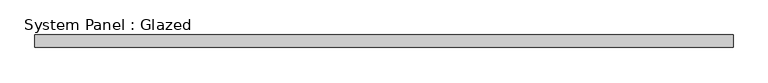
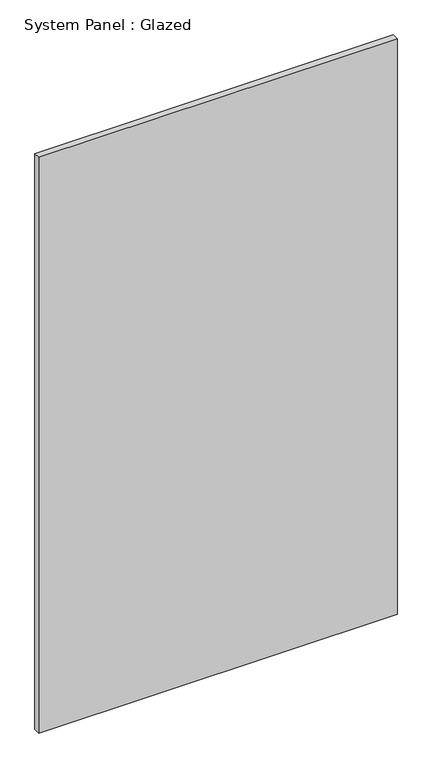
"""IFC4 building model written with IfcOpenShell, lengths in millimetres: plate geometry, System Panel : Glazed."""

from ifc_helpers import new_model, si_unit, origin, origin_with_axes, place, context, project, spatial, polyline, outline, extrude, source, transform, mapped, element, save


def system_panel_glazed_0eb4fe1c(model_context):
    return source(origin(), model_context, "Body", "SweptSolid", [
        extrude(outline(polyline([(696.2366102, -49.5), (-696.2366102, -49.5), (-696.2366102, -24.5), (696.2366102, -24.5), (696.2366102, -49.5)])), origin_with_axes(), (0.0, 0.0, 1.0), 2365.0),
    ])


if __name__ == "__main__":
    model = new_model("IFC4")
    model_context = context("Model", 3, world=origin())
    ifc_project = project(units=[si_unit("LENGTHUNIT", "METRE", prefix="MILLI")], contexts=[model_context])
    site = spatial("IfcSite", under=ifc_project)
    building = spatial("IfcBuilding", under=site)
    placement = place(None, origin())
    system_panel_glazed_shape = system_panel_glazed_0eb4fe1c(model_context)
    element("IfcPlate", 1, ObjectType="System Panel : Glazed", at=placement, inside=building, context=model_context, shape_type="MappedRepresentation", body=[
        mapped(system_panel_glazed_shape, transform((0.0, 0.0, 0.0), x_axis=(1.0, 0.0, 0.0), y_axis=(0.0, 1.0, 0.0), z_axis=(0.0, 0.0, 1.0))),
    ])
    save(model, "model.ifc")
